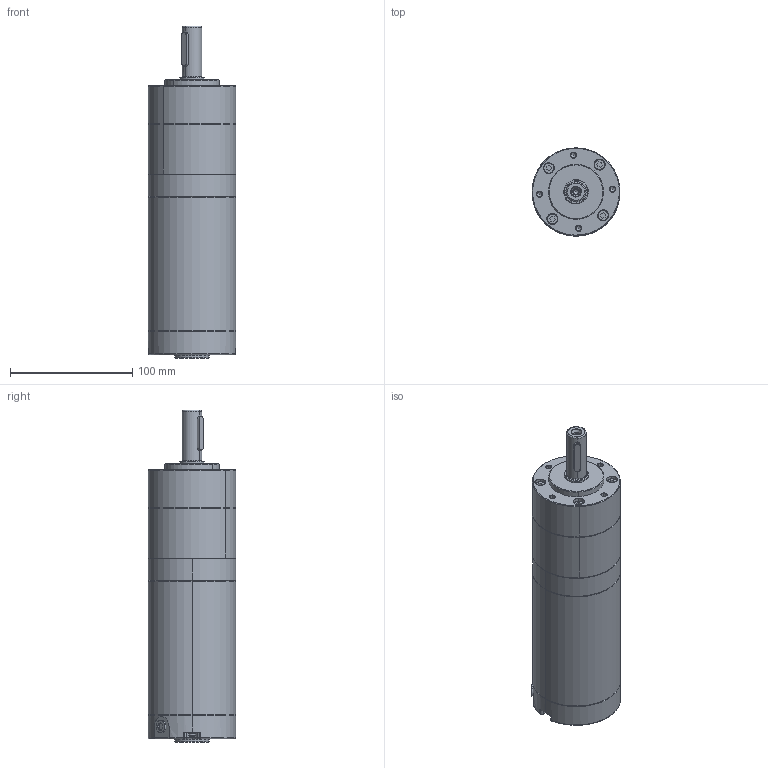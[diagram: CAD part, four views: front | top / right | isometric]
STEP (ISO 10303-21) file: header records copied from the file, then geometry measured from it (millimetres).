
FILE_DESCRIPTION (( 'STEP AP203' ), '1' );
FILE_NAME ('72ZPN衄芃媼撰熬厒.STEP', '2021-07-17T08:20:01', ( '' ), ( '' ), 'SwSTEP 2.0', 'SolidWorks 2021', '' );
FILE_SCHEMA (( 'CONFIG_CONTROL_DESIGN' ));
Length unit declared in the file: millimetre
Products named in the file (3): 72PN媼撰; 72ZPN衄芃珨撰熬厒; 72ZPN衄芃媼撰熬厒
Assembly tree (2 placements, depth 2):
  72ZPN衄芃媼撰熬厒
    72ZPN衄芃珨撰熬厒
    72PN媼撰
Bounding box: 72 x 72 x 271.65 mm (x, y, z)
Volume: 901743.6 mm3; surface area: 72797.3 mm2
Topology: 2 solids, 2 shells, 244 faces, 557 edges, 339 vertices
Faces by surface type: plane 89, cylinder 79, cone 40, torus 22, bspline 14
Entity records: 7521 total; most frequent: CARTESIAN_POINT 1686, DIRECTION 1236, ORIENTED_EDGE 1094, EDGE_CURVE 547, AXIS2_PLACEMENT_3D 475, VERTEX_POINT 339, VECTOR 286, LINE 286
